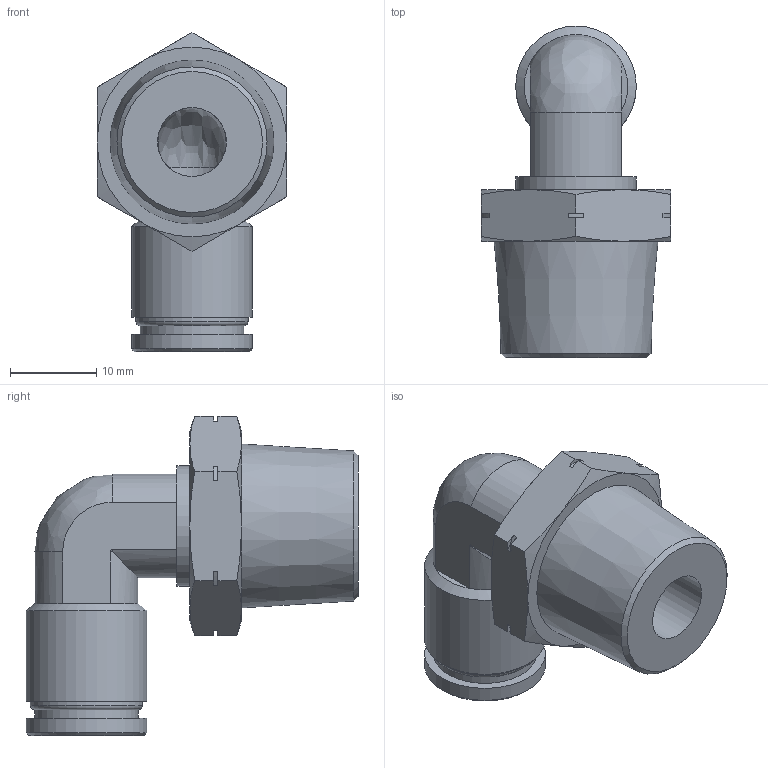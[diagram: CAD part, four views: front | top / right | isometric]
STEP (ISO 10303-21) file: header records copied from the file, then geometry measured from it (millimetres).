
FILE_DESCRIPTION(/* description */ (''),/* implementation_level */ '2;1');
FILE_NAME(/* name */ 'LXH21 0010 N4.stp',/* time_stamp */ '2026-05-01T13:13:27+02:00',/* author */ ('freju'),/* organization */ (''),/* preprocessor_version */ 'ST-DEVELOPER v20.1',/* originating_system */ 'Autodesk Inventor 2026',/* authorisation */ '');
FILE_SCHEMA (('AUTOMOTIVE_DESIGN { 1 0 10303 214 3 1 1 }'));
Length unit declared in the file: millimetre
Products named in the file (1): LXH21 0010 N4
Bounding box: 22 x 38.5 x 37 mm (x, y, z)
Volume: 7206.6 mm3; surface area: 4896.5 mm2
Topology: 1 solids, 1 shells, 69 faces, 170 edges, 105 vertices
Faces by surface type: plane 30, cylinder 18, cone 16, bspline 4, torus 1
Full cylindrical faces by diameter (mm): 8 x2, 10 x1, 12 x1, 13 x1, 14 x3
Entity records: 2077 total; most frequent: CARTESIAN_POINT 445, DIRECTION 344, ORIENTED_EDGE 332, EDGE_CURVE 166, AXIS2_PLACEMENT_3D 136, VERTEX_POINT 105, EDGE_LOOP 77, LINE 72
